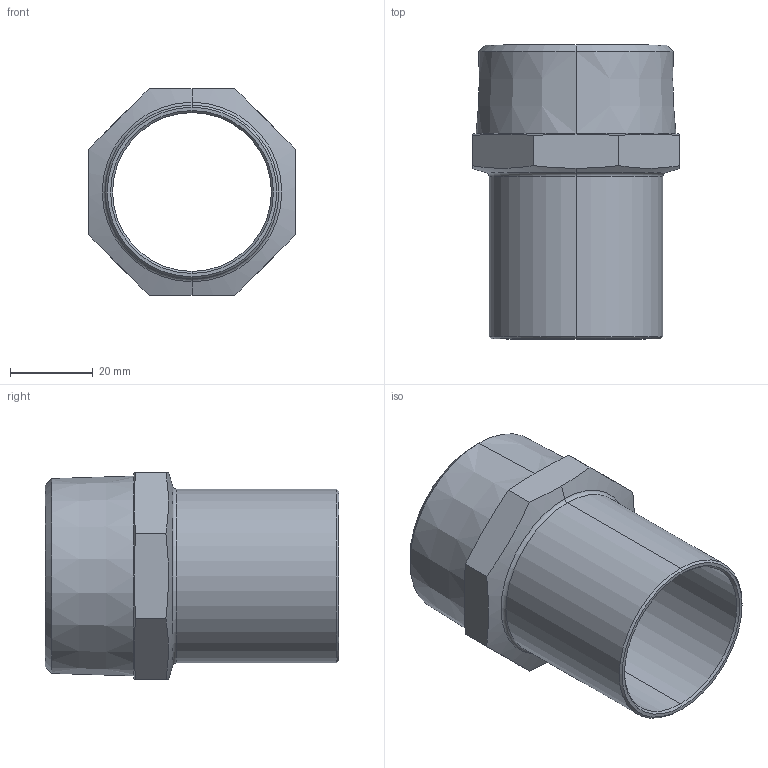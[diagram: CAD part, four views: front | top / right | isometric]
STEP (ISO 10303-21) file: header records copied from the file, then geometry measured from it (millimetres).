
FILE_DESCRIPTION (( 'STEP AP203' ), '1' );
FILE_NAME ('SP4280G Ø42 1 1-2.STEP', '2017-04-26T09:10:04', ( '' ), ( '' ), 'SwSTEP 2.0', 'SolidWorks 2016', '' );
FILE_SCHEMA (( 'CONFIG_CONTROL_DESIGN' ));
Length unit declared in the file: millimetre
Products named in the file (1): SP4280G Ø42 1 1-2
Bounding box: 50 x 71.08 x 50 mm (x, y, z)
Volume: 27984.4 mm3; surface area: 19967.4 mm2
Topology: 1 solids, 1 shells, 34 faces, 78 edges, 46 vertices
Faces by surface type: cone 16, plane 10, cylinder 6, torus 2
Entity records: 1103 total; most frequent: CARTESIAN_POINT 275, DIRECTION 156, ORIENTED_EDGE 156, EDGE_CURVE 78, AXIS2_PLACEMENT_3D 63, VERTEX_POINT 46, EDGE_LOOP 36, FACE_OUTER_BOUND 34
